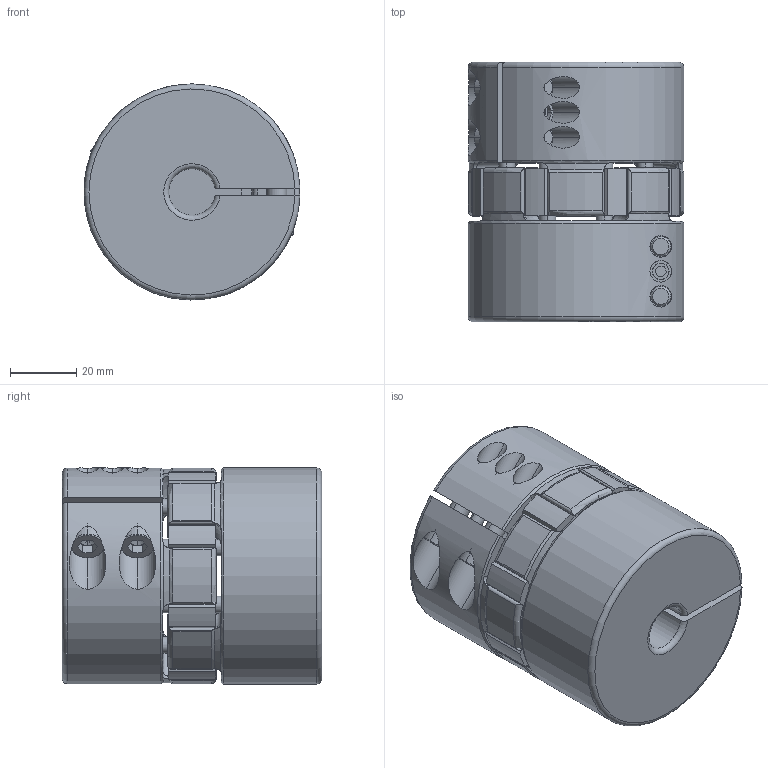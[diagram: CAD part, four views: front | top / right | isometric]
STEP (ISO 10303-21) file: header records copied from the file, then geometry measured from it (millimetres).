
FILE_DESCRIPTION (( 'STEP AP203' ), '1' );
FILE_NAME ('DXA-65X78-14-14.STEP', '2023-10-18T06:06:44', ( '' ), ( '' ), 'SwSTEP 2.0', 'SolidWorks 2020', '' );
FILE_SCHEMA (( 'CONFIG_CONTROL_DESIGN' ));
Length unit declared in the file: millimetre
Products named in the file (5): DXA-65X78-14-14; socket set screw dog point_iso_ISO M6 x 12 ÎÞÍ·; 65X78媼唗CNC; 65繩豪菜; socket head cap screw_iso_ISO 4762 M6 x 20 - 20C
Assembly tree (9 placements, depth 2):
  DXA-65X78-14-14
    65繩豪菜
    65X78媼唗CNC  x2
    socket head cap screw_iso_ISO 4762 M6 x 20 - 20C  x4
    socket set screw dog point_iso_ISO M6 x 12 ÎÞÍ·  x2
Bounding box: 64.98 x 78.1 x 65 mm (x, y, z)
Volume: 226421.4 mm3; surface area: 53515.1 mm2
Topology: 9 solids, 9 shells, 481 faces, 1183 edges, 746 vertices
Faces by surface type: cylinder 221, plane 120, torus 106, cone 34
Entity records: 9070 total; most frequent: CARTESIAN_POINT 2174, DIRECTION 1427, ORIENTED_EDGE 1258, EDGE_CURVE 629, AXIS2_PLACEMENT_3D 614, VERTEX_POINT 405, CIRCLE 348, EDGE_LOOP 286
